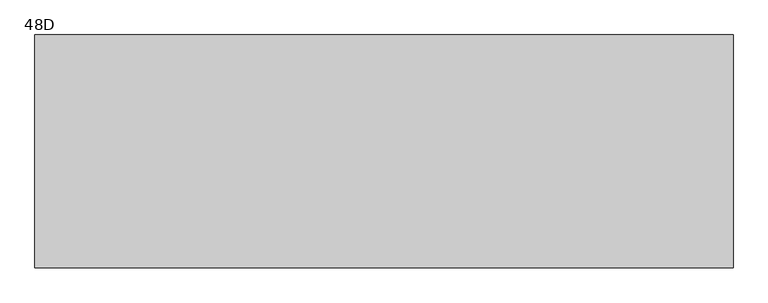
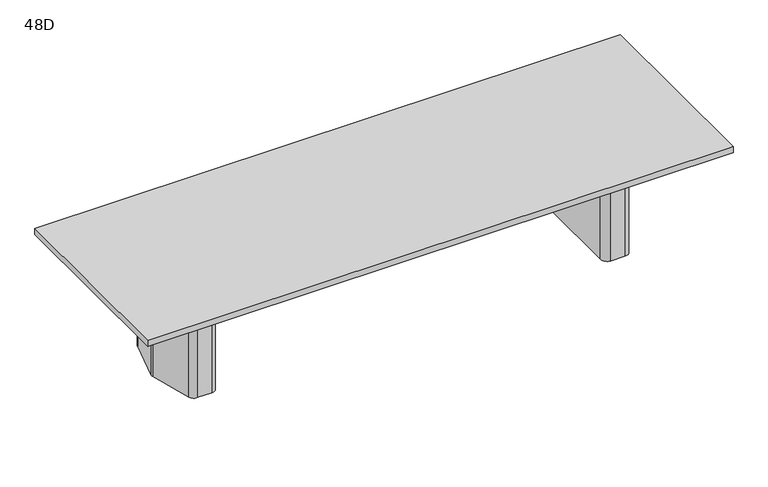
"""IFC4 building model written with IfcOpenShell, lengths in millimetres: furniture geometry, Coalesse_AM_Table_Conference_ETable2_Rectangular_12ft_TwoBase : 48D."""

from ifc_helpers import new_model, si_unit, frame, origin, place, context, project, spatial, polyline, circle_curve, outline, extrude, source, transform, mapped, element, save
from ifc_brep_helpers import plane_surface, cylinder_surface, revolved_surface, advanced_brep


def furniture_48d_e3e12d28(model_context):
    return source(origin(), model_context, "Body", "SolidModel", [
        advanced_brep(
        [(1370.224548, 274.2093613, 698.5), (1330.3579246, 304.8, 698.5), (1241.425, 304.8, 698.5), (1200.15, 263.525, 698.5), (1200.15, -263.525, 698.5), (1241.425, -304.8, 698.5), (1330.3579246, -304.8, 698.5), (1370.224548, -274.2093613, 698.5), (1440.8503901, -10.6333708, 698.5), (1440.8503901, 10.6333708, 698.5), (1238.25, -206.375, 698.5), (1238.25, 206.375, 698.5), (1263.65, 231.775, 698.5), (1322.6608422, 231.775, 698.5), (1347.195338, 212.9490792, 698.5), (1385.8875, 68.54974, 698.5), (1385.8875, -68.54974, 698.5), (1347.195338, -212.9490792, 698.5), (1322.6608422, -231.775, 698.5), (1263.65, -231.775, 698.5), (1370.224548, 274.2093613, 3.175), (1440.8503901, 10.6333708, 3.175), (1440.8503901, -10.6333708, 3.175), (1370.224548, -274.2093613, 3.175), (1330.3579246, -304.8, 3.175), (1241.425, -304.8, 3.175), (1200.15, -263.525, 3.175), (1200.15, 263.525, 3.175), (1241.425, 304.8, 3.175), (1330.3579246, 304.8, 3.175), (1359.4625859, 216.2361187, 3.175), (1322.6608422, 244.475, 3.175), (1263.65, 244.475, 3.175), (1225.55, 206.375, 3.175), (1225.55, -206.375, 3.175), (1263.65, -244.475, 3.175), (1322.6608422, -244.475, 3.175), (1359.4625859, -216.2361187, 3.175), (1398.5875, -70.2217466, 3.175), (1398.5875, 70.2217466, 3.175), (1263.65, -231.775, 3.175), (1238.25, -206.375, 3.175), (1322.6608422, -231.775, 3.175), (1347.195338, -212.9490792, 3.175), (1385.8875, -68.54974, 3.175), (1385.8875, 68.54974, 3.175), (1347.195338, 212.9490792, 3.175), (1322.6608422, 231.775, 3.175), (1263.65, 231.775, 3.175), (1238.25, 206.375, 3.175), (1359.4625859, 216.2361187, 0.0), (1398.5875, 70.2217466, 0.0), (1398.5875, -70.2217466, 0.0), (1359.4625859, -216.2361187, 0.0), (1322.6608422, -244.475, 0.0), (1263.65, -244.475, 0.0), (1225.55, -206.375, 0.0), (1225.55, 206.375, 0.0), (1263.65, 244.475, 0.0), (1322.6608422, 244.475, 0.0)],
        [
            (0, 1, circle_curve(frame((1330.3579246, 263.5270004, 698.5), z_axis=(0.0, 0.0, 1.0), x_axis=(-1.0, 0.0, 0.0)), 41.2729996)),
            (1, 2),
            (2, 3, circle_curve(frame((1241.425, 263.525, 698.5), z_axis=(0.0, 0.0, 1.0), x_axis=(-1.0, 0.0, 0.0)), 41.275)),
            (3, 4),
            (4, 5, circle_curve(frame((1241.425, -263.525, 698.5), z_axis=(0.0, 0.0, 1.0), x_axis=(-1.0, 0.0, 0.0)), 41.275)),
            (5, 6),
            (6, 7, circle_curve(frame((1330.3579246, -263.5270004, 698.5), z_axis=(0.0, 0.0, 1.0), x_axis=(-1.0, 0.0, 0.0)), 41.2729996)),
            (7, 8),
            (8, 9, circle_curve(frame((1401.1665979, 0.0, 698.5), z_axis=(0.0, 0.0, 1.0), x_axis=(-1.0, 0.0, 0.0)), 41.0837187)),
            (9, 0),
            (10, 11),
            (11, 12, circle_curve(frame((1263.65, 206.375, 698.5), z_axis=(0.0, 0.0, -1.0), x_axis=(-1.0, 0.0, 0.0)), 25.4)),
            (12, 13),
            (13, 14, circle_curve(frame((1322.6608422, 206.375, 698.5), z_axis=(0.0, 0.0, -1.0), x_axis=(-1.0, 0.0, 0.0)), 25.4)),
            (14, 15),
            (15, 16),
            (16, 17),
            (17, 18, circle_curve(frame((1322.6608422, -206.375, 698.5), z_axis=(0.0, 0.0, -1.0), x_axis=(-1.0, 0.0, 0.0)), 25.4)),
            (18, 19),
            (19, 10, circle_curve(frame((1263.65, -206.375, 698.5), z_axis=(0.0, 0.0, -1.0), x_axis=(-1.0, 0.0, 0.0)), 25.4)),
            (20, 21),
            (21, 22, circle_curve(frame((1401.1665979, 0.0, 3.175), z_axis=(0.0, 0.0, -1.0), x_axis=(-1.0, 0.0, 0.0)), 41.0837187)),
            (22, 23),
            (23, 24, circle_curve(frame((1330.3579246, -263.5270004, 3.175), z_axis=(0.0, 0.0, -1.0), x_axis=(-1.0, 0.0, 0.0)), 41.2729996)),
            (24, 25),
            (25, 26, circle_curve(frame((1241.425, -263.525, 3.175), z_axis=(0.0, 0.0, -1.0), x_axis=(-1.0, 0.0, 0.0)), 41.275)),
            (26, 27),
            (27, 28, circle_curve(frame((1241.425, 263.525, 3.175), z_axis=(0.0, 0.0, -1.0), x_axis=(-1.0, 0.0, 0.0)), 41.275)),
            (28, 29),
            (29, 20, circle_curve(frame((1330.3579246, 263.5270004, 3.175), z_axis=(0.0, 0.0, -1.0), x_axis=(-1.0, 0.0, 0.0)), 41.2729996)),
            (30, 31, circle_curve(frame((1322.6608422, 206.375, 3.175), z_axis=(0.0, 0.0, 1.0), x_axis=(-1.0, 0.0, 0.0)), 38.1)),
            (31, 32),
            (32, 33, circle_curve(frame((1263.65, 206.375, 3.175), z_axis=(0.0, 0.0, 1.0), x_axis=(-1.0, 0.0, 0.0)), 38.1)),
            (33, 34),
            (34, 35, circle_curve(frame((1263.65, -206.375, 3.175), z_axis=(0.0, 0.0, 1.0), x_axis=(-1.0, 0.0, 0.0)), 38.1)),
            (35, 36),
            (36, 37, circle_curve(frame((1322.6608422, -206.375, 3.175), z_axis=(0.0, 0.0, 1.0), x_axis=(-1.0, 0.0, 0.0)), 38.1)),
            (37, 38),
            (38, 39),
            (39, 30),
            (9, 21),
            (20, 0),
            (8, 22),
            (7, 23),
            (6, 24),
            (5, 25),
            (4, 26),
            (3, 27),
            (2, 28),
            (1, 29),
            (19, 40),
            (40, 41, circle_curve(frame((1263.65, -206.375, 3.175), z_axis=(0.0, 0.0, -1.0), x_axis=(-1.0, 0.0, 0.0)), 25.4)),
            (41, 10),
            (18, 42),
            (42, 40),
            (17, 43),
            (43, 42, circle_curve(frame((1322.6608422, -206.375, 3.175), z_axis=(0.0, 0.0, -1.0), x_axis=(-1.0, 0.0, 0.0)), 25.4)),
            (16, 44),
            (44, 43),
            (15, 45),
            (45, 44),
            (14, 46),
            (46, 45),
            (13, 47),
            (47, 46, circle_curve(frame((1322.6608422, 206.375, 3.175), z_axis=(0.0, 0.0, -1.0), x_axis=(-1.0, 0.0, 0.0)), 25.4)),
            (12, 48),
            (48, 47),
            (11, 49),
            (49, 48, circle_curve(frame((1263.65, 206.375, 3.175), z_axis=(0.0, 0.0, -1.0), x_axis=(-1.0, 0.0, 0.0)), 25.4)),
            (41, 49),
            (50, 51),
            (51, 52),
            (52, 53),
            (53, 54, circle_curve(frame((1322.6608422, -206.375, 0.0), z_axis=(0.0, 0.0, -1.0), x_axis=(-1.0, 0.0, 0.0)), 38.1)),
            (54, 55),
            (55, 56, circle_curve(frame((1263.65, -206.375, 0.0), z_axis=(0.0, 0.0, -1.0), x_axis=(-1.0, 0.0, 0.0)), 38.1)),
            (56, 57),
            (57, 58, circle_curve(frame((1263.65, 206.375, 0.0), z_axis=(0.0, 0.0, -1.0), x_axis=(-1.0, 0.0, 0.0)), 38.1)),
            (58, 59),
            (59, 50, circle_curve(frame((1322.6608422, 206.375, 0.0), z_axis=(0.0, 0.0, -1.0), x_axis=(-1.0, 0.0, 0.0)), 38.1)),
            (50, 30),
            (39, 51),
            (38, 52),
            (37, 53),
            (36, 54),
            (35, 55),
            (34, 56),
            (33, 57),
            (32, 58),
            (31, 59),
        ],
        [
            plane_surface(frame((1440.8374275, 10.6817473, 698.5), z_axis=(0.0, 0.0, 1.0000000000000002), x_axis=(0.25882201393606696, -0.9659250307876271, 0.0))),
            plane_surface(frame((1440.8374275, 10.6817473, 3.175), z_axis=(0.0, 0.0, -1.0000000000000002), x_axis=(-0.25882201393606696, 0.9659250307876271, 0.0))),
            plane_surface(frame((1370.224548, 274.2093613, 698.5), z_axis=(0.9659250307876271, 0.25882201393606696, 0.0), x_axis=(0.0, 0.0, -1.0))),
            cylinder_surface(frame((1401.1665979, 0.0, 3.175), z_axis=(0.0, 0.0, 1.0), x_axis=(-1.0, 0.0, 0.0)), 41.0837187),
            plane_surface(frame((1440.8503901, -10.6333708, 698.5), z_axis=(0.9659250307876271, -0.2588220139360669, 0.0), x_axis=(0.0, 0.0, -1.0))),
            cylinder_surface(frame((1330.3579246, -263.5270004, 3.175), z_axis=(0.0, 0.0, 1.0), x_axis=(-1.0, 0.0, 0.0)), 41.2729996),
            plane_surface(frame((1330.3579246, -304.8, 698.5), z_axis=(0.0, -1.0, 0.0), x_axis=(0.0, 0.0, -1.0))),
            cylinder_surface(frame((1241.425, -263.525, 3.175), z_axis=(0.0, 0.0, 1.0), x_axis=(-1.0, 0.0, 0.0)), 41.275),
            plane_surface(frame((1200.15, -263.525, 698.5), z_axis=(-1.0, 0.0, 0.0), x_axis=(0.0, 0.0, -1.0))),
            cylinder_surface(frame((1241.425, 263.525, 3.175), z_axis=(0.0, 0.0, 1.0), x_axis=(-1.0, 0.0, 0.0)), 41.275),
            plane_surface(frame((1241.425, 304.8, 698.5), z_axis=(0.0, 1.0, 0.0), x_axis=(0.0, 0.0, -1.0))),
            cylinder_surface(frame((1330.3579246, 263.5270004, 3.175), z_axis=(0.0, 0.0, 1.0), x_axis=(-1.0, 0.0, 0.0)), 41.2729996),
            revolved_surface(polyline([(1238.25, -206.375, 3.175), (1238.25, -206.375, 698.5)]), (1263.65, -206.375, 0.0), (0.0, 0.0, -1.0)),
            plane_surface(frame((1263.65, -231.775, 698.5), z_axis=(0.0, 1.0, 0.0), x_axis=(0.0, 0.0, -1.0))),
            revolved_surface(polyline([(1297.2608421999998, -206.375, 3.175), (1297.2608421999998, -206.375, 698.5)]), (1322.6608422, -206.375, 0.0), (0.0, 0.0, -1.0)),
            plane_surface(frame((1347.195338, -212.9490792, 698.5), z_axis=(-0.9659250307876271, 0.2588220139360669, 0.0), x_axis=(0.0, 0.0, -1.0))),
            plane_surface(frame((1385.8875, -68.54974, 698.5), z_axis=(-1.0, 0.0, 0.0), x_axis=(0.0, 0.0, -1.0))),
            plane_surface(frame((1385.8875, 68.54974, 698.5), z_axis=(-0.9659250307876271, -0.25882201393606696, 0.0), x_axis=(0.0, 0.0, -1.0))),
            revolved_surface(polyline([(1297.2608421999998, 206.375, 3.175), (1297.2608421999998, 206.375, 698.5)]), (1322.6608422, 206.375, 0.0), (0.0, 0.0, -1.0)),
            plane_surface(frame((1322.6608422, 231.775, 698.5), z_axis=(0.0, -1.0, 0.0), x_axis=(0.0, 0.0, -1.0))),
            revolved_surface(polyline([(1238.25, 206.375, 3.175), (1238.25, 206.375, 698.5)]), (1263.65, 206.375, 0.0), (0.0, 0.0, -1.0)),
            plane_surface(frame((1238.25, 206.375, 698.5), z_axis=(1.0, 0.0, 0.0), x_axis=(0.0, 0.0, -1.0))),
            plane_surface(frame((1398.1547479, 71.8367796, 3.175), z_axis=(0.0, 0.0, 1.0), x_axis=(0.25882201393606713, -0.965925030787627, 0.0))),
            plane_surface(frame((1398.1547479, 71.8367796, 0.0), z_axis=(0.0, 0.0, -1.0), x_axis=(-0.25882201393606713, 0.965925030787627, 0.0))),
            plane_surface(frame((1359.4625859, 216.2361187, 3.175), z_axis=(0.965925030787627, 0.25882201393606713, 0.0), x_axis=(0.0, 0.0, -1.0))),
            plane_surface(frame((1398.5875, 70.2217466, 3.175), z_axis=(1.0, 0.0, 0.0), x_axis=(0.0, 0.0, -1.0))),
            plane_surface(frame((1398.5875, -70.2217466, 3.175), z_axis=(0.9659250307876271, -0.2588220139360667, 0.0), x_axis=(0.0, 0.0, -1.0))),
            cylinder_surface(frame((1322.6608422, -206.375, 0.0), z_axis=(0.0, 0.0, 1.0), x_axis=(-1.0, 0.0, 0.0)), 38.1),
            plane_surface(frame((1322.6608422, -244.475, 3.175), z_axis=(0.0, -1.0, 0.0), x_axis=(0.0, 0.0, -1.0))),
            cylinder_surface(frame((1263.65, -206.375, 0.0), z_axis=(0.0, 0.0, 1.0), x_axis=(-1.0, 0.0, 0.0)), 38.1),
            plane_surface(frame((1225.55, -206.375, 3.175), z_axis=(-1.0, 0.0, 0.0), x_axis=(0.0, 0.0, -1.0))),
            cylinder_surface(frame((1263.65, 206.375, 0.0), z_axis=(0.0, 0.0, 1.0), x_axis=(-1.0, 0.0, 0.0)), 38.1),
            plane_surface(frame((1263.65, 244.475, 3.175), z_axis=(0.0, 1.0, 0.0), x_axis=(0.0, 0.0, -1.0))),
            cylinder_surface(frame((1322.6608422, 206.375, 0.0), z_axis=(0.0, 0.0, 1.0), x_axis=(-1.0, 0.0, 0.0)), 38.1),
        ],
        [
            (0, [[1, 2, 3, 4, 5, 6, 7, 8, 9, 10], [11, 12, 13, 14, 15, 16, 17, 18, 19, 20]]),
            (1, [[21, 22, 23, 24, 25, 26, 27, 28, 29, 30], [31, 32, 33, 34, 35, 36, 37, 38, 39, 40]]),
            (2, [[41, -21, 42, -10]]),
            (3, [[43, -22, -41, -9]]),
            (4, [[44, -23, -43, -8]]),
            (5, [[45, -24, -44, -7]]),
            (6, [[46, -25, -45, -6]]),
            (7, [[47, -26, -46, -5]]),
            (8, [[48, -27, -47, -4]]),
            (9, [[49, -28, -48, -3]]),
            (10, [[50, -29, -49, -2]]),
            (11, [[-42, -30, -50, -1]]),
            (12, [[51, 52, 53, -20]]),
            (13, [[54, 55, -51, -19]]),
            (14, [[56, 57, -54, -18]]),
            (15, [[58, 59, -56, -17]]),
            (16, [[60, 61, -58, -16]]),
            (17, [[62, 63, -60, -15]]),
            (18, [[64, 65, -62, -14]]),
            (19, [[66, 67, -64, -13]]),
            (20, [[68, 69, -66, -12]]),
            (21, [[-53, 70, -68, -11]]),
            (22, [[-55, -57, -59, -61, -63, -65, -67, -69, -70, -52]]),
            (23, [[71, 72, 73, 74, 75, 76, 77, 78, 79, 80]]),
            (24, [[81, -40, 82, -71]]),
            (25, [[-82, -39, 83, -72]]),
            (26, [[-83, -38, 84, -73]]),
            (27, [[-84, -37, 85, -74]]),
            (28, [[-85, -36, 86, -75]]),
            (29, [[-86, -35, 87, -76]]),
            (30, [[-87, -34, 88, -77]]),
            (31, [[-88, -33, 89, -78]]),
            (32, [[-89, -32, 90, -79]]),
            (33, [[-90, -31, -81, -80]]),
        ],
    ),
        advanced_brep(
        [(-1381.337048, 274.2093613, 698.5), (-1451.9628901, 10.6333708, 698.5), (-1451.9628901, -10.6333708, 698.5), (-1381.337048, -274.2093613, 698.5), (-1341.4704246, -304.8, 698.5), (-1252.5375, -304.8, 698.5), (-1211.2625, -263.525, 698.5), (-1211.2625, 263.525, 698.5), (-1252.5375, 304.8, 698.5), (-1341.4704246, 304.8, 698.5), (-1249.3625, -206.375, 698.5), (-1274.7625, -231.775, 698.5), (-1333.7733422, -231.775, 698.5), (-1358.307838, -212.9490792, 698.5), (-1397.0, -68.54974, 698.5), (-1397.0, 68.54974, 698.5), (-1358.307838, 212.9490792, 698.5), (-1333.7733422, 231.775, 698.5), (-1274.7625, 231.775, 698.5), (-1249.3625, 206.375, 698.5), (-1381.337048, 274.2093613, 3.175), (-1341.4704246, 304.8, 3.175), (-1252.5375, 304.8, 3.175), (-1211.2625, 263.525, 3.175), (-1211.2625, -263.525, 3.175), (-1252.5375, -304.8, 3.175), (-1341.4704246, -304.8, 3.175), (-1381.337048, -274.2093613, 3.175), (-1451.9628901, -10.6333708, 3.175), (-1451.9628901, 10.6333708, 3.175), (-1370.5750859, 216.2361187, 3.175), (-1409.7, 70.2217466, 3.175), (-1409.7, -70.2217466, 3.175), (-1370.5750859, -216.2361187, 3.175), (-1333.7733422, -244.475, 3.175), (-1274.7625, -244.475, 3.175), (-1236.6625, -206.375, 3.175), (-1236.6625, 206.375, 3.175), (-1274.7625, 244.475, 3.175), (-1333.7733422, 244.475, 3.175), (-1249.3625, -206.375, 3.175), (-1274.7625, -231.775, 3.175), (-1333.7733422, -231.775, 3.175), (-1358.307838, -212.9490792, 3.175), (-1397.0, -68.54974, 3.175), (-1397.0, 68.54974, 3.175), (-1358.307838, 212.9490792, 3.175), (-1333.7733422, 231.775, 3.175), (-1274.7625, 231.775, 3.175), (-1249.3625, 206.375, 3.175), (-1370.5750859, 216.2361187, 0.0), (-1333.7733422, 244.475, 0.0), (-1274.7625, 244.475, 0.0), (-1236.6625, 206.375, 0.0), (-1236.6625, -206.375, 0.0), (-1274.7625, -244.475, 0.0), (-1333.7733422, -244.475, 0.0), (-1370.5750859, -216.2361187, 0.0), (-1409.7, -70.2217466, 0.0), (-1409.7, 70.2217466, 0.0)],
        [
            (0, 1),
            (1, 2, circle_curve(frame((-1412.2790979, 0.0, 698.5), z_axis=(0.0, 0.0, 1.0), x_axis=(1.0, 0.0, 0.0)), 41.0837187)),
            (2, 3),
            (3, 4, circle_curve(frame((-1341.4704246, -263.5270004, 698.5), z_axis=(0.0, 0.0, 1.0), x_axis=(1.0, 0.0, 0.0)), 41.2729996)),
            (4, 5),
            (5, 6, circle_curve(frame((-1252.5375, -263.525, 698.5), z_axis=(0.0, 0.0, 1.0), x_axis=(1.0, 0.0, 0.0)), 41.275)),
            (6, 7),
            (7, 8, circle_curve(frame((-1252.5375, 263.525, 698.5), z_axis=(0.0, 0.0, 1.0), x_axis=(1.0, 0.0, 0.0)), 41.275)),
            (8, 9),
            (9, 0, circle_curve(frame((-1341.4704246, 263.5270004, 698.5), z_axis=(0.0, 0.0, 1.0), x_axis=(1.0, 0.0, 0.0)), 41.2729996)),
            (10, 11, circle_curve(frame((-1274.7625, -206.375, 698.5), z_axis=(0.0, 0.0, -1.0), x_axis=(1.0, 0.0, 0.0)), 25.4)),
            (11, 12),
            (12, 13, circle_curve(frame((-1333.7733422, -206.375, 698.5), z_axis=(0.0, 0.0, -1.0), x_axis=(1.0, 0.0, 0.0)), 25.4)),
            (13, 14),
            (14, 15),
            (15, 16),
            (16, 17, circle_curve(frame((-1333.7733422, 206.375, 698.5), z_axis=(0.0, 0.0, -1.0), x_axis=(1.0, 0.0, 0.0)), 25.4)),
            (17, 18),
            (18, 19, circle_curve(frame((-1274.7625, 206.375, 698.5), z_axis=(0.0, 0.0, -1.0), x_axis=(1.0, 0.0, 0.0)), 25.4)),
            (19, 10),
            (20, 21, circle_curve(frame((-1341.4704246, 263.5270004, 3.175), z_axis=(0.0, 0.0, -1.0), x_axis=(1.0, 0.0, 0.0)), 41.2729996)),
            (21, 22),
            (22, 23, circle_curve(frame((-1252.5375, 263.525, 3.175), z_axis=(0.0, 0.0, -1.0), x_axis=(1.0, 0.0, 0.0)), 41.275)),
            (23, 24),
            (24, 25, circle_curve(frame((-1252.5375, -263.525, 3.175), z_axis=(0.0, 0.0, -1.0), x_axis=(1.0, 0.0, 0.0)), 41.275)),
            (25, 26),
            (26, 27, circle_curve(frame((-1341.4704246, -263.5270004, 3.175), z_axis=(0.0, 0.0, -1.0), x_axis=(1.0, 0.0, 0.0)), 41.2729996)),
            (27, 28),
            (28, 29, circle_curve(frame((-1412.2790979, 0.0, 3.175), z_axis=(0.0, 0.0, -1.0), x_axis=(1.0, 0.0, 0.0)), 41.0837187)),
            (29, 20),
            (30, 31),
            (31, 32),
            (32, 33),
            (33, 34, circle_curve(frame((-1333.7733422, -206.375, 3.175), z_axis=(0.0, 0.0, 1.0), x_axis=(1.0, 0.0, 0.0)), 38.1)),
            (34, 35),
            (35, 36, circle_curve(frame((-1274.7625, -206.375, 3.175), z_axis=(0.0, 0.0, 1.0), x_axis=(1.0, 0.0, 0.0)), 38.1)),
            (36, 37),
            (37, 38, circle_curve(frame((-1274.7625, 206.375, 3.175), z_axis=(0.0, 0.0, 1.0), x_axis=(1.0, 0.0, 0.0)), 38.1)),
            (38, 39),
            (39, 30, circle_curve(frame((-1333.7733422, 206.375, 3.175), z_axis=(0.0, 0.0, 1.0), x_axis=(1.0, 0.0, 0.0)), 38.1)),
            (0, 20),
            (29, 1),
            (28, 2),
            (27, 3),
            (26, 4),
            (25, 5),
            (24, 6),
            (23, 7),
            (22, 8),
            (21, 9),
            (10, 40),
            (40, 41, circle_curve(frame((-1274.7625, -206.375, 3.175), z_axis=(0.0, 0.0, -1.0), x_axis=(1.0, 0.0, 0.0)), 25.4)),
            (41, 11),
            (41, 42),
            (42, 12),
            (42, 43, circle_curve(frame((-1333.7733422, -206.375, 3.175), z_axis=(0.0, 0.0, -1.0), x_axis=(1.0, 0.0, 0.0)), 25.4)),
            (43, 13),
            (43, 44),
            (44, 14),
            (44, 45),
            (45, 15),
            (45, 46),
            (46, 16),
            (46, 47, circle_curve(frame((-1333.7733422, 206.375, 3.175), z_axis=(0.0, 0.0, -1.0), x_axis=(1.0, 0.0, 0.0)), 25.4)),
            (47, 17),
            (47, 48),
            (48, 18),
            (48, 49, circle_curve(frame((-1274.7625, 206.375, 3.175), z_axis=(0.0, 0.0, -1.0), x_axis=(1.0, 0.0, 0.0)), 25.4)),
            (49, 19),
            (49, 40),
            (50, 51, circle_curve(frame((-1333.7733422, 206.375, 0.0), z_axis=(0.0, 0.0, -1.0), x_axis=(1.0, 0.0, 0.0)), 38.1)),
            (51, 52),
            (52, 53, circle_curve(frame((-1274.7625, 206.375, 0.0), z_axis=(0.0, 0.0, -1.0), x_axis=(1.0, 0.0, 0.0)), 38.1)),
            (53, 54),
            (54, 55, circle_curve(frame((-1274.7625, -206.375, 0.0), z_axis=(0.0, 0.0, -1.0), x_axis=(1.0, 0.0, 0.0)), 38.1)),
            (55, 56),
            (56, 57, circle_curve(frame((-1333.7733422, -206.375, 0.0), z_axis=(0.0, 0.0, -1.0), x_axis=(1.0, 0.0, 0.0)), 38.1)),
            (57, 58),
            (58, 59),
            (59, 50),
            (59, 31),
            (30, 50),
            (58, 32),
            (57, 33),
            (56, 34),
            (55, 35),
            (54, 36),
            (53, 37),
            (52, 38),
            (51, 39),
        ],
        [
            plane_surface(frame((-1451.9499275, 10.6817473, 698.5), z_axis=(0.0, 0.0, 1.0000000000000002), x_axis=(-0.25882201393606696, -0.9659250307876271, 0.0))),
            plane_surface(frame((-1451.9499275, 10.6817473, 3.175), z_axis=(0.0, 0.0, -1.0000000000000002), x_axis=(0.25882201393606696, 0.9659250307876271, 0.0))),
            plane_surface(frame((-1381.337048, 274.2093613, 698.5), z_axis=(-0.9659250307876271, 0.25882201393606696, 0.0), x_axis=(0.0, 0.0, -1.0))),
            cylinder_surface(frame((-1412.2790979, 0.0, 3.175), z_axis=(0.0, 0.0, 1.0), x_axis=(1.0, 0.0, 0.0)), 41.0837187),
            plane_surface(frame((-1451.9628901, -10.6333708, 698.5), z_axis=(-0.9659250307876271, -0.2588220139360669, 0.0), x_axis=(0.0, 0.0, -1.0))),
            cylinder_surface(frame((-1341.4704246, -263.5270004, 3.175), z_axis=(0.0, 0.0, 1.0), x_axis=(1.0, 0.0, 0.0)), 41.2729996),
            plane_surface(frame((-1341.4704246, -304.8, 698.5), z_axis=(0.0, -1.0, 0.0), x_axis=(0.0, 0.0, -1.0))),
            cylinder_surface(frame((-1252.5375, -263.525, 3.175), z_axis=(0.0, 0.0, 1.0), x_axis=(1.0, 0.0, 0.0)), 41.275),
            plane_surface(frame((-1211.2625, -263.525, 698.5), z_axis=(1.0, 0.0, 0.0), x_axis=(0.0, 0.0, -1.0))),
            cylinder_surface(frame((-1252.5375, 263.525, 3.175), z_axis=(0.0, 0.0, 1.0), x_axis=(1.0, 0.0, 0.0)), 41.275),
            plane_surface(frame((-1252.5375, 304.8, 698.5), z_axis=(0.0, 1.0, 0.0), x_axis=(0.0, 0.0, -1.0))),
            cylinder_surface(frame((-1341.4704246, 263.5270004, 3.175), z_axis=(0.0, 0.0, 1.0), x_axis=(1.0, 0.0, 0.0)), 41.2729996),
            revolved_surface(polyline([(-1249.3625, -206.375, 3.175), (-1249.3625, -206.375, 698.5)]), (-1274.7625, -206.375, 0.0), (0.0, 0.0, -1.0)),
            plane_surface(frame((-1274.7625, -231.775, 698.5), z_axis=(0.0, 1.0, 0.0), x_axis=(0.0, 0.0, -1.0))),
            revolved_surface(polyline([(-1308.3733421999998, -206.375, 3.175), (-1308.3733421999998, -206.375, 698.5)]), (-1333.7733422, -206.375, 0.0), (0.0, 0.0, -1.0)),
            plane_surface(frame((-1358.307838, -212.9490792, 698.5), z_axis=(0.9659250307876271, 0.2588220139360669, 0.0), x_axis=(0.0, 0.0, -1.0))),
            plane_surface(frame((-1397.0, -68.54974, 698.5), z_axis=(1.0, 0.0, 0.0), x_axis=(0.0, 0.0, -1.0))),
            plane_surface(frame((-1397.0, 68.54974, 698.5), z_axis=(0.9659250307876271, -0.25882201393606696, 0.0), x_axis=(0.0, 0.0, -1.0))),
            revolved_surface(polyline([(-1308.3733421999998, 206.375, 3.175), (-1308.3733421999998, 206.375, 698.5)]), (-1333.7733422, 206.375, 0.0), (0.0, 0.0, -1.0)),
            plane_surface(frame((-1333.7733422, 231.775, 698.5), z_axis=(0.0, -1.0, 0.0), x_axis=(0.0, 0.0, -1.0))),
            revolved_surface(polyline([(-1249.3625, 206.375, 3.175), (-1249.3625, 206.375, 698.5)]), (-1274.7625, 206.375, 0.0), (0.0, 0.0, -1.0)),
            plane_surface(frame((-1249.3625, 206.375, 698.5), z_axis=(-1.0, 0.0, 0.0), x_axis=(0.0, 0.0, -1.0))),
            plane_surface(frame((-1409.2672479, 71.8367796, 3.175), z_axis=(0.0, 0.0, 1.0), x_axis=(-0.25882201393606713, -0.965925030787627, 0.0))),
            plane_surface(frame((-1409.2672479, 71.8367796, 0.0), z_axis=(0.0, 0.0, -1.0), x_axis=(0.25882201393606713, 0.965925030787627, 0.0))),
            plane_surface(frame((-1370.5750859, 216.2361187, 3.175), z_axis=(-0.965925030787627, 0.25882201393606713, 0.0), x_axis=(0.0, 0.0, -1.0))),
            plane_surface(frame((-1409.7, 70.2217466, 3.175), z_axis=(-1.0, 0.0, 0.0), x_axis=(0.0, 0.0, -1.0))),
            plane_surface(frame((-1409.7, -70.2217466, 3.175), z_axis=(-0.9659250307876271, -0.2588220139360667, 0.0), x_axis=(0.0, 0.0, -1.0))),
            cylinder_surface(frame((-1333.7733422, -206.375, 0.0), z_axis=(0.0, 0.0, 1.0), x_axis=(1.0, 0.0, 0.0)), 38.1),
            plane_surface(frame((-1333.7733422, -244.475, 3.175), z_axis=(0.0, -1.0, 0.0), x_axis=(0.0, 0.0, -1.0))),
            cylinder_surface(frame((-1274.7625, -206.375, 0.0), z_axis=(0.0, 0.0, 1.0), x_axis=(1.0, 0.0, 0.0)), 38.1),
            plane_surface(frame((-1236.6625, -206.375, 3.175), z_axis=(1.0, 0.0, 0.0), x_axis=(0.0, 0.0, -1.0))),
            cylinder_surface(frame((-1274.7625, 206.375, 0.0), z_axis=(0.0, 0.0, 1.0), x_axis=(1.0, 0.0, 0.0)), 38.1),
            plane_surface(frame((-1274.7625, 244.475, 3.175), z_axis=(0.0, 1.0, 0.0), x_axis=(0.0, 0.0, -1.0))),
            cylinder_surface(frame((-1333.7733422, 206.375, 0.0), z_axis=(0.0, 0.0, 1.0), x_axis=(1.0, 0.0, 0.0)), 38.1),
        ],
        [
            (0, [[1, 2, 3, 4, 5, 6, 7, 8, 9, 10], [11, 12, 13, 14, 15, 16, 17, 18, 19, 20]]),
            (1, [[21, 22, 23, 24, 25, 26, 27, 28, 29, 30], [31, 32, 33, 34, 35, 36, 37, 38, 39, 40]]),
            (2, [[-1, 41, -30, 42]]),
            (3, [[-2, -42, -29, 43]]),
            (4, [[-3, -43, -28, 44]]),
            (5, [[-4, -44, -27, 45]]),
            (6, [[-5, -45, -26, 46]]),
            (7, [[-6, -46, -25, 47]]),
            (8, [[-7, -47, -24, 48]]),
            (9, [[-8, -48, -23, 49]]),
            (10, [[-9, -49, -22, 50]]),
            (11, [[-10, -50, -21, -41]]),
            (12, [[-11, 51, 52, 53]]),
            (13, [[-12, -53, 54, 55]]),
            (14, [[-13, -55, 56, 57]]),
            (15, [[-14, -57, 58, 59]]),
            (16, [[-15, -59, 60, 61]]),
            (17, [[-16, -61, 62, 63]]),
            (18, [[-17, -63, 64, 65]]),
            (19, [[-18, -65, 66, 67]]),
            (20, [[-19, -67, 68, 69]]),
            (21, [[-20, -69, 70, -51]]),
            (22, [[-52, -70, -68, -66, -64, -62, -60, -58, -56, -54]]),
            (23, [[71, 72, 73, 74, 75, 76, 77, 78, 79, 80]]),
            (24, [[-80, 81, -31, 82]]),
            (25, [[-79, 83, -32, -81]]),
            (26, [[-78, 84, -33, -83]]),
            (27, [[-77, 85, -34, -84]]),
            (28, [[-76, 86, -35, -85]]),
            (29, [[-75, 87, -36, -86]]),
            (30, [[-74, 88, -37, -87]]),
            (31, [[-73, 89, -38, -88]]),
            (32, [[-72, 90, -39, -89]]),
            (33, [[-71, -82, -40, -90]]),
        ],
    ),
        extrude(outline(polyline([(96.8375, 698.5), (103.1875, 698.5), (103.1875, 476.25), (-103.1875, 476.25), (-103.1875, 698.5), (-96.8375, 698.5), (-96.8375, 482.6), (96.8375, 482.6), (96.8375, 698.5)])), frame((-1211.2625, 0.0, 0.0), z_axis=(1.0, 0.0, 0.0), x_axis=(0.0, 1.0, 0.0)), (0.0, 0.0, 1.0), 2411.4125),
        extrude(outline(polyline([(1828.8, 609.6), (1828.8, -609.6), (-1828.8, -609.6), (-1828.8, 609.6), (1828.8, 609.6)])), frame((0.0, 0.0, 698.5), z_axis=(0.0, 0.0, 1.0), x_axis=(1.0, 0.0, 0.0)), (0.0, 0.0, 1.0), 38.1),
    ])


if __name__ == "__main__":
    model = new_model("IFC4")
    model_context = context("Model", 3, world=origin())
    ifc_project = project(units=[si_unit("LENGTHUNIT", "METRE", prefix="MILLI")], contexts=[model_context])
    site = spatial("IfcSite", under=ifc_project)
    building = spatial("IfcBuilding", under=site)
    placement = place(None, origin())
    furniture_48d_shape = furniture_48d_e3e12d28(model_context)
    element("IfcFurniture", 1, ObjectType="Coalesse_AM_Table_Conference_ETable2_Rectangular_12ft_TwoBase : 48D", at=placement, inside=building, context=model_context, shape_type="MappedRepresentation", body=[
        mapped(furniture_48d_shape, transform((0.0, 0.0, 0.0), x_axis=(1.0, 0.0, 0.0), y_axis=(0.0, 1.0, 0.0), z_axis=(0.0, 0.0, 1.0))),
    ])
    save(model, "model.ifc")
